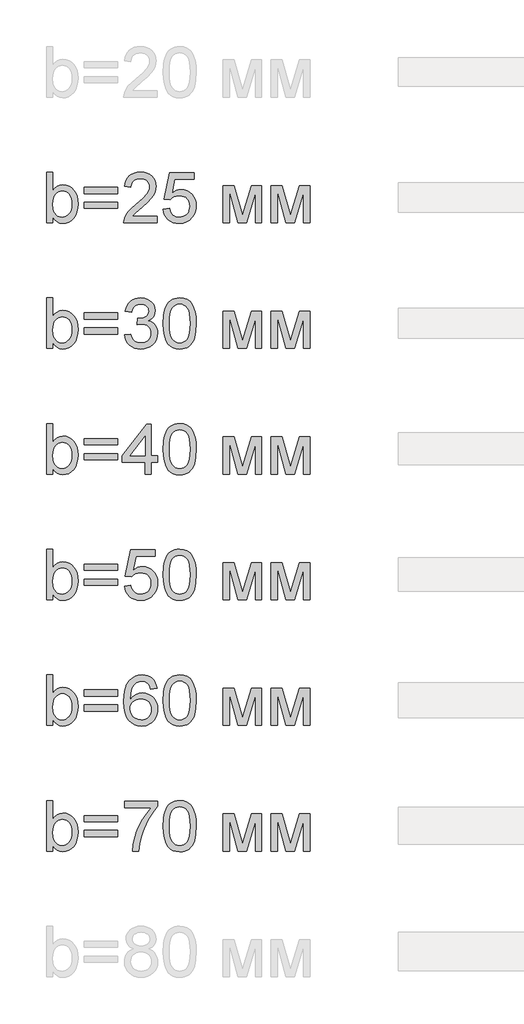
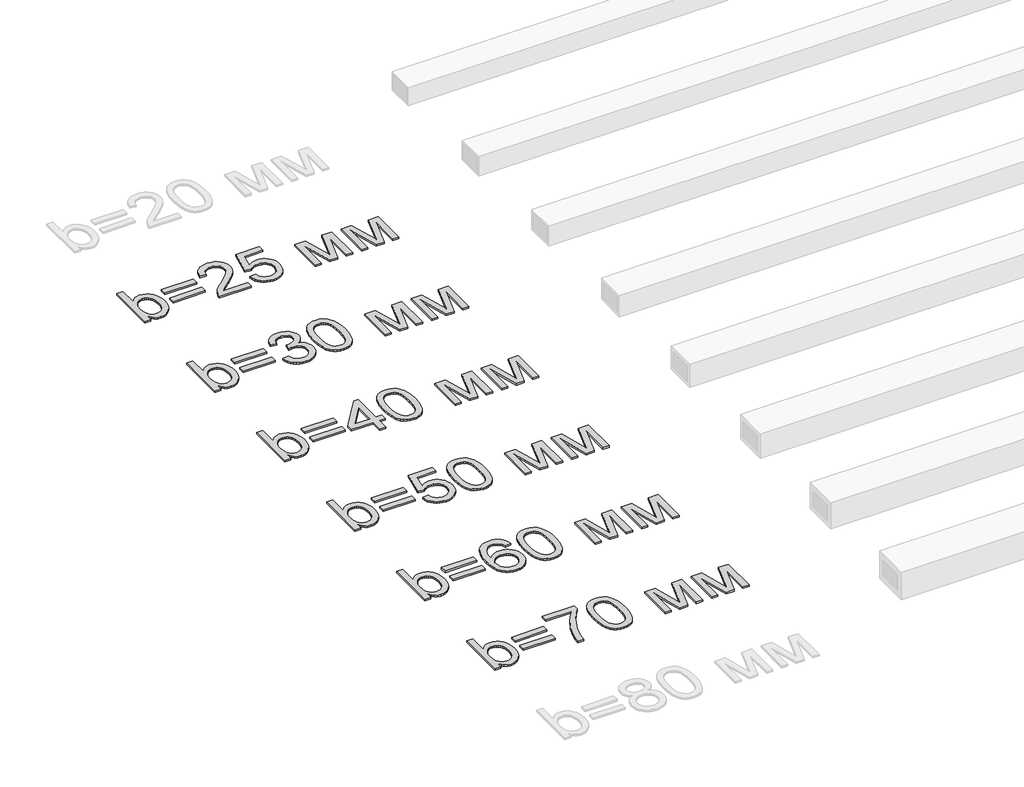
# One storey, part 69 of 86: 6 proxies.
"""IFC4 building model written with IfcOpenShell, lengths in millimetres."""

from ifc_helpers import new_model, si_unit, origin, origin_with_axes, place, context, project, spatial, polyline, outline, extrude, element, save

model = new_model("IFC4")

# Units and contexts
model_context = context("Model", 3, world=origin())
ifc_project = project(units=[si_unit("LENGTHUNIT", "METRE", prefix="MILLI")], contexts=[model_context])

# Site, building, storey
site = spatial("IfcSite", under=ifc_project)
building = spatial("IfcBuilding", under=site)
storey = spatial("IfcBuildingStorey", under=building, Name="Уровень 1", Elevation=0.0)

# Proxies
placement = place(None, origin())
element("IfcBuildingElementProxy", 1, Name="Текст модели 1", ObjectType="Текст модели 1", at=placement, inside=storey, context=model_context, shape_type="SweptSolid", body=[
    extrude(outline(polyline([(89771.0068445, 56669.2937088), (89695.6646119, 56669.2937088), (89695.6646119, 57272.0315697), (89771.0068445, 57272.0315697), (89771.0068445, 57048.5064694), (89795.7836969, 57080.3742473), (89823.7611226, 57103.1369457), (89854.9391217, 57116.7945648), (89889.3176942, 57121.3471045), (89928.1292447, 57117.2452202), (89964.8070796, 57104.9395675), (89997.2542716, 57085.2026984), (90023.3738932, 57058.8071653), (90043.8465263, 57026.0104854), (90059.3527524, 56987.0701762), (90069.1200193, 56943.6049185), (90072.375775, 56897.233393), (90069.0050562, 56843.7249568), (90058.8928999, 56796.6544555), (90042.039306, 56756.0218892), (90018.4442745, 56721.8272577), (89990.1219594, 56694.7235517), (89959.0865146, 56675.3637617), (89925.33794, 56663.7478877), (89888.8762358, 56659.8759297), (89853.3664262, 56664.8699278), (89821.8849245, 56679.8519221), (89794.4317306, 56704.8219125), (89771.0068445, 56739.7798991), (89771.0068445, 56669.2937088)]), holes=[polyline([(89771.0068445, 56893.7017259), (89776.1571925, 56830.8674811), (89782.5951274, 56807.065516), (89791.6082363, 56788.3403224), (89809.8643803, 56765.0993774), (89831.0819744, 56748.4987024), (89855.2610185, 56738.5382973), (89882.4015127, 56735.2181623), (89904.9342849, 56737.6645776), (89925.8851645, 56745.0038234), (89945.2541516, 56757.2358997), (89963.041246, 56774.3608066), (89977.9128757, 56796.3325588), (89988.5354683, 56823.105171), (89994.9090239, 56854.6786432), (89997.0335424, 56891.0529755), (89994.9963958, 56928.1170865), (89988.8849562, 56959.9940614), (89978.6992234, 56986.6839001), (89964.4391976, 57008.1866028), (89947.2912981, 57024.7320955), (89928.4419444, 57036.5503046), (89907.8911364, 57043.64123), (89885.6388742, 57046.0048719), (89863.106102, 57043.5584566), (89842.1552224, 57036.2192108), (89822.7862354, 57023.9871344), (89804.9991409, 57006.8622276), (89790.1275112, 56985.1112046), (89779.5049186, 56959.00078), (89773.1313631, 56928.5309538), (89771.0068445, 56893.7017259)])]), origin_with_axes(), (0.0, 0.0, 1.0), 20.0),
    extrude(outline(polyline([(90543.2647288, 57017.7515346), (90147.7180076, 57017.7515346), (90147.7180076, 57093.0937672), (90543.2647288, 57093.0937672), (90543.2647288, 57017.7515346)])), origin_with_axes(), (0.0, 0.0, 1.0), 20.0),
    extrude(outline(polyline([(90543.2647288, 56838.8137322), (90147.7180076, 56838.8137322), (90147.7180076, 56914.1559648), (90543.2647288, 56914.1559648), (90543.2647288, 56838.8137322)])), origin_with_axes(), (0.0, 0.0, 1.0), 20.0),
    extrude(outline(polyline([(91014.1536826, 56744.6359414), (91014.1536826, 56669.2937088), (90618.6069614, 56669.2937088), (90620.2624304, 56695.8180007), (90626.7003653, 56721.2386465), (90645.2784061, 56761.8344247), (90672.4648855, 56801.2161923), (90711.7914708, 56842.4373698), (90766.7898291, 56888.5513779), (90848.09175, 56960.7666136), (90896.8729026, 57014.0727147), (90911.1007387, 57035.8513288), (90921.2634789, 57057.3356373), (90927.3611229, 57078.5256402), (90929.393671, 57099.4213376), (90927.4760861, 57119.0800317), (90921.7233314, 57137.1476362), (90912.1354069, 57153.624151), (90898.7123126, 57168.5095763), (90882.1990095, 57180.8382216), (90863.3404587, 57189.6443969), (90842.1366602, 57194.928102), (90818.587614, 57196.6893371), (90793.778572, 57194.9694888), (90771.5906891, 57189.8099438), (90752.0239655, 57181.2107021), (90735.0784011, 57169.1717638), (90721.3701983, 57154.0977991), (90711.5155593, 57136.3934781), (90705.5144843, 57116.0588008), (90703.3669731, 57093.0937672), (90628.0247405, 57102.5115463), (90634.5040621, 57141.4058703), (90646.2900816, 57175.3889696), (90663.3827988, 57204.4608442), (90685.7822137, 57228.6214943), (90712.9732917, 57247.6134023), (90744.4409979, 57261.1790508), (90780.1853322, 57269.31844), (90820.2062948, 57272.0315697), (90860.5859423, 57269.0149373), (90896.5234147, 57259.9650403), (90928.018712, 57244.8818785), (90955.0718342, 57223.7654519), (90976.7998646, 57198.1792592), (90992.3198862, 57169.6867986), (91001.6318992, 57138.2880704), (91004.7359036, 57103.9830743), (91001.3881774, 57067.9490329), (90991.3449989, 57032.5403908), (90973.5211163, 56996.5247435), (90946.8312775, 56958.6696862), (90904.2857248, 56913.4753831), (90838.8947001, 56855.4419984), (90752.2217021, 56782.9692453), (90718.2294057, 56744.6359414), (91014.1536826, 56744.6359414)])), origin_with_axes(), (0.0, 0.0, 1.0), 20.0),
    extrude(outline(polyline([(91089.4959153, 56829.3959531), (91164.8381479, 56838.8137322), (91170.4667424, 56814.5933013), (91178.6705109, 56793.5826409), (91189.4494533, 56775.7817508), (91202.8035698, 56761.1906312), (91218.705269, 56749.8276761), (91237.1269599, 56741.7112795), (91258.0686425, 56736.8414416), (91281.5303167, 56735.2181623), (91310.2251124, 56737.4760381), (91335.5353936, 56744.2496653), (91357.4611605, 56755.539044), (91376.0024131, 56771.3441743), (91390.7452841, 56790.8833067), (91401.2759062, 56813.3746922), (91407.5942794, 56838.8183307), (91409.7004039, 56867.2142222), (91407.7276367, 56894.0512138), (91401.8093351, 56917.9083611), (91391.9454991, 56938.7856644), (91378.1361287, 56956.6831234), (91360.3352386, 56971.0397183), (91338.4968437, 56981.2944289), (91312.6209439, 56987.4472553), (91282.7075391, 56989.4981974), (91246.1584629, 56986.2240476), (91216.5623564, 56976.4015984), (91192.9259382, 56961.3552248), (91174.2559269, 56942.409302), (91098.9136943, 56951.8270811), (91164.8381479, 57262.6137906), (91456.7892992, 57262.6137906), (91456.7892992, 57187.271558), (91225.7594063, 57187.271558), (91193.5329435, 57021.2832018), (91220.1216147, 57040.3394891), (91247.3540794, 57053.951123), (91275.2303376, 57062.1181032), (91303.7503892, 57064.84043), (91340.4420197, 57061.4651127), (91374.144609, 57051.3391608), (91404.8581571, 57034.4625743), (91432.582664, 57010.8353531), (91455.5339019, 56981.9014342), (91471.9276433, 56949.1047543), (91481.7638882, 56912.4453135), (91485.0426365, 56871.9231117), (91482.0903835, 56832.8908321), (91473.2336244, 56796.5808791), (91458.4723594, 56762.993253), (91437.8065883, 56732.1279536), (91406.4998305, 56700.5176931), (91369.9691484, 56677.9389357), (91328.2145419, 56664.3916812), (91281.2360111, 56659.8759297), (91242.3554828, 56662.777599), (91207.2365478, 56671.4826067), (91175.8792062, 56685.9909529), (91148.2834581, 56706.3026375), (91125.3230231, 56731.4059852), (91107.8716209, 56760.2893203), (91095.9292516, 56792.952643), (91089.4959153, 56829.3959531)])), origin_with_axes(), (0.0, 0.0, 1.0), 20.0),
    extrude(outline(polyline([(91805.2471251, 57111.9293254), (91934.8887402, 57111.9293254), (92034.8054901, 56757.5853876), (92142.5213382, 57111.9293254), (92266.7182998, 57111.9293254), (92266.7182998, 56669.2937088), (92191.3760672, 56669.2937088), (92191.3760672, 57025.6977857), (92083.0716078, 56669.2937088), (91984.1849275, 56669.2937088), (91880.5893577, 57042.7675103), (91880.5893577, 56669.2937088), (91805.2471251, 56669.2937088), (91805.2471251, 57111.9293254)])), origin_with_axes(), (0.0, 0.0, 1.0), 20.0),
    extrude(outline(polyline([(92379.7316487, 57111.9293254), (92509.3732638, 57111.9293254), (92609.2900137, 56757.5853876), (92717.0058619, 57111.9293254), (92841.2028235, 57111.9293254), (92841.2028235, 56669.2937088), (92765.8605909, 56669.2937088), (92765.8605909, 57025.6977857), (92657.5561315, 56669.2937088), (92558.6694512, 56669.2937088), (92455.0738813, 57042.7675103), (92455.0738813, 56669.2937088), (92379.7316487, 56669.2937088), (92379.7316487, 57111.9293254)])), origin_with_axes(), (0.0, 0.0, 1.0), 20.0),
])
element("IfcBuildingElementProxy", 2, Name="Текст модели 1", ObjectType="Текст модели 1", at=placement, inside=storey, context=model_context, shape_type="SweptSolid", body=[
    extrude(outline(polyline([(89771.0068445, 55169.2937088), (89695.6646119, 55169.2937088), (89695.6646119, 55772.0315697), (89771.0068445, 55772.0315697), (89771.0068445, 55548.5064694), (89795.7836969, 55580.3742473), (89823.7611226, 55603.1369457), (89854.9391217, 55616.7945648), (89889.3176942, 55621.3471045), (89928.1292447, 55617.2452202), (89964.8070796, 55604.9395675), (89997.2542716, 55585.2026984), (90023.3738932, 55558.8071653), (90043.8465263, 55526.0104854), (90059.3527524, 55487.0701762), (90069.1200193, 55443.6049185), (90072.375775, 55397.233393), (90069.0050562, 55343.7249568), (90058.8928999, 55296.6544555), (90042.039306, 55256.0218892), (90018.4442745, 55221.8272577), (89990.1219594, 55194.7235517), (89959.0865146, 55175.3637617), (89925.33794, 55163.7478877), (89888.8762358, 55159.8759297), (89853.3664262, 55164.8699278), (89821.8849245, 55179.8519221), (89794.4317306, 55204.8219125), (89771.0068445, 55239.7798991), (89771.0068445, 55169.2937088)]), holes=[polyline([(89771.0068445, 55393.7017259), (89776.1571925, 55330.8674811), (89782.5951274, 55307.065516), (89791.6082363, 55288.3403224), (89809.8643803, 55265.0993774), (89831.0819744, 55248.4987024), (89855.2610185, 55238.5382973), (89882.4015127, 55235.2181623), (89904.9342849, 55237.6645776), (89925.8851645, 55245.0038234), (89945.2541516, 55257.2358997), (89963.041246, 55274.3608066), (89977.9128757, 55296.3325588), (89988.5354683, 55323.105171), (89994.9090239, 55354.6786432), (89997.0335424, 55391.0529755), (89994.9963958, 55428.1170865), (89988.8849562, 55459.9940614), (89978.6992234, 55486.6839001), (89964.4391976, 55508.1866028), (89947.2912981, 55524.7320955), (89928.4419444, 55536.5503046), (89907.8911364, 55543.64123), (89885.6388742, 55546.0048719), (89863.106102, 55543.5584566), (89842.1552224, 55536.2192108), (89822.7862354, 55523.9871344), (89804.9991409, 55506.8622276), (89790.1275112, 55485.1112046), (89779.5049186, 55459.00078), (89773.1313631, 55428.5309538), (89771.0068445, 55393.7017259)])]), origin_with_axes(), (0.0, 0.0, 1.0), 20.0),
    extrude(outline(polyline([(90543.2647288, 55517.7515346), (90147.7180076, 55517.7515346), (90147.7180076, 55593.0937672), (90543.2647288, 55593.0937672), (90543.2647288, 55517.7515346)])), origin_with_axes(), (0.0, 0.0, 1.0), 20.0),
    extrude(outline(polyline([(90543.2647288, 55338.8137322), (90147.7180076, 55338.8137322), (90147.7180076, 55414.1559648), (90543.2647288, 55414.1559648), (90543.2647288, 55338.8137322)])), origin_with_axes(), (0.0, 0.0, 1.0), 20.0),
    extrude(outline(polyline([(90628.0247405, 55329.3959531), (90703.3669731, 55338.8137322), (90720.2343626, 55291.4673194), (90731.6065148, 55273.5606633), (90744.9376386, 55259.498374), (90760.5312366, 55248.8757814), (90778.6908116, 55241.2882153), (90799.4163635, 55236.7356756), (90822.7078924, 55235.2181623), (90850.0047364, 55237.3058927), (90874.3585245, 55243.5690836), (90895.7692566, 55254.0077352), (90914.2369328, 55268.6218475), (90929.1085624, 55286.3169715), (90939.731155, 55305.9986582), (90946.1047106, 55327.6669077), (90948.2292291, 55351.32172), (90946.1231047, 55373.8498937), (90939.8047314, 55394.3455193), (90929.2741093, 55412.808597), (90914.5312383, 55429.2391266), (90896.5418088, 55442.7266002), (90876.2715108, 55452.36051), (90853.7203445, 55458.1408558), (90828.8883099, 55460.0676378), (90805.0863448, 55458.0074986), (90776.0604554, 55451.8270811), (90784.4481649, 55527.1693137), (90796.5146943, 55526.2863969), (90841.6538151, 55531.6942622), (90882.01047, 55547.9178582), (90898.6203421, 55560.1867228), (90910.4845364, 55575.3618551), (90917.603053, 55593.4432551), (90919.9758919, 55614.430923), (90918.2560435, 55631.4684579), (90913.0964986, 55646.9700854), (90904.4972569, 55660.9358057), (90892.4583186, 55673.3656186), (90877.7062506, 55683.5697454), (90860.9676198, 55690.8584075), (90821.53067, 55696.6893371), (90800.8740959, 55695.2178091), (90782.0201437, 55690.8032252), (90764.9688132, 55683.4455853), (90749.7201045, 55673.1448894), (90736.6510966, 55659.9011376), (90726.1388686, 55643.7143298), (90718.1834205, 55624.584466), (90712.7847522, 55602.5115463), (90637.4425196, 55611.9293254), (90646.372855, 55647.8989875), (90659.6258039, 55679.5828243), (90677.2013662, 55706.9808359), (90699.099542, 55730.0930222), (90724.6305524, 55748.4411368), (90753.1046189, 55761.5469328), (90784.5217413, 55769.4104105), (90818.8819196, 55772.0315697), (90866.2467265, 55766.8628277), (90909.7487724, 55751.3566016), (90946.4266073, 55726.8924489), (90973.3187812, 55694.8499271), (90989.8182887, 55657.9329689), (90995.3181245, 55618.8455069), (90990.0942002, 55582.4251894), (90974.4224272, 55549.3893862), (90948.5235347, 55521.2464136), (90912.618252, 55499.5045877), (90937.7261981, 55491.6503071), (90959.7807238, 55480.4483003), (90978.7818288, 55465.8985674), (90994.7295133, 55448.0011083), (91007.3478657, 55427.1973815), (91016.3609746, 55403.9288453), (91021.7688399, 55378.1954998), (91023.5714617, 55349.9973448), (91019.9662182, 55311.7744055), (91009.1504875, 55276.5680986), (90991.1242697, 55244.378424), (90965.8875649, 55215.2053818), (90935.1418271, 55190.9987465), (90900.5885107, 55173.7082927), (90862.2276157, 55163.3340205), (90820.059142, 55159.8759297), (90781.9465673, 55162.8281827), (90747.2185069, 55171.6849418), (90715.874961, 55186.4462068), (90687.9159293, 55207.1119779), (90664.4726492, 55232.4682444), (90646.6763577, 55261.3009958), (90634.5270548, 55293.610232), (90628.0247405, 55329.3959531)])), origin_with_axes(), (0.0, 0.0, 1.0), 20.0),
    extrude(outline(polyline([(91089.4959153, 55465.8065969), (91095.0325393, 55562.2836501), (91101.9533193, 55603.1967265), (91111.6424114, 55639.2261694), (91124.0584287, 55670.6662845), (91139.1599846, 55697.8113772), (91156.9470791, 55720.6614476), (91177.4197121, 55739.2164957), (91200.6468616, 55753.5730906), (91226.6975054, 55763.8278012), (91255.5716435, 55769.9806276), (91287.2692759, 55772.0315697), (91333.6959837, 55767.1755274), (91375.2666491, 55752.6074004), (91410.0314977, 55728.8974058), (91436.0407547, 55696.6157607), (91455.6856533, 55656.0383766), (91471.3574262, 55607.4411651), (91481.6213339, 55545.7289604), (91485.0426365, 55465.8065969), (91479.5611947, 55369.8813667), (91472.7093926, 55329.106246), (91463.1168696, 55293.1227884), (91450.7974212, 55261.6688778), (91435.7648432, 55234.4823983), (91418.0191355, 55211.56335), (91397.560298, 55192.9117329), (91374.3055574, 55178.458569), (91348.1721402, 55168.1348805), (91319.1600463, 55161.9406674), (91287.2692759, 55159.8759297), (91245.7721868, 55163.4627792), (91208.9839873, 55174.2233275), (91176.9046773, 55192.1575748), (91149.5342569, 55217.265521), (91123.2674824, 55262.6529621), (91104.5055007, 55319.2056218), (91093.2483116, 55386.9235001), (91089.4959153, 55465.8065969)]), holes=[polyline([(91164.8381479, 55465.9537497), (91167.0454398, 55400.456959), (91173.6673158, 55347.440565), (91184.7037756, 55306.9045676), (91200.1548194, 55278.848967), (91218.8432248, 55259.7604899), (91239.5917693, 55246.1258635), (91262.400453, 55237.9450876), (91287.2692759, 55235.2181623), (91312.1380987, 55237.9542847), (91334.9467824, 55246.1626517), (91355.695327, 55259.8432634), (91374.3837323, 55278.9961198), (91389.8347761, 55307.0977057), (91400.871236, 55347.624506), (91407.4931119, 55400.5765206), (91409.7004039, 55465.9537497), (91407.5666883, 55529.7168965), (91401.1655416, 55581.79979), (91390.4969637, 55622.2024301), (91375.5609547, 55650.9248169), (91357.185249, 55670.9467945), (91336.1975812, 55685.248207), (91312.5979512, 55693.8290546), (91286.3863591, 55696.6893371), (91261.6462949, 55694.1693454), (91239.2238873, 55686.6093704), (91219.1191363, 55674.0094121), (91201.3320418, 55656.3694704), (91185.3659632, 55625.0995008), (91173.9616213, 55582.9402242), (91167.1190162, 55529.8916405), (91164.8381479, 55465.9537497)])]), origin_with_axes(), (0.0, 0.0, 1.0), 20.0),
    extrude(outline(polyline([(91805.2471251, 55611.9293254), (91934.8887402, 55611.9293254), (92034.8054901, 55257.5853876), (92142.5213382, 55611.9293254), (92266.7182998, 55611.9293254), (92266.7182998, 55169.2937088), (92191.3760672, 55169.2937088), (92191.3760672, 55525.6977857), (92083.0716078, 55169.2937088), (91984.1849275, 55169.2937088), (91880.5893577, 55542.7675103), (91880.5893577, 55169.2937088), (91805.2471251, 55169.2937088), (91805.2471251, 55611.9293254)])), origin_with_axes(), (0.0, 0.0, 1.0), 20.0),
    extrude(outline(polyline([(92379.7316487, 55611.9293254), (92509.3732638, 55611.9293254), (92609.2900137, 55257.5853876), (92717.0058619, 55611.9293254), (92841.2028235, 55611.9293254), (92841.2028235, 55169.2937088), (92765.8605909, 55169.2937088), (92765.8605909, 55525.6977857), (92657.5561315, 55169.2937088), (92558.6694512, 55169.2937088), (92455.0738813, 55542.7675103), (92455.0738813, 55169.2937088), (92379.7316487, 55169.2937088), (92379.7316487, 55611.9293254)])), origin_with_axes(), (0.0, 0.0, 1.0), 20.0),
])
element("IfcBuildingElementProxy", 3, Name="Текст модели 1", ObjectType="Текст модели 1", at=placement, inside=storey, context=model_context, shape_type="SweptSolid", body=[
    extrude(outline(polyline([(89771.0068445, 53669.2937088), (89695.6646119, 53669.2937088), (89695.6646119, 54272.0315697), (89771.0068445, 54272.0315697), (89771.0068445, 54048.5064694), (89795.7836969, 54080.3742473), (89823.7611226, 54103.1369457), (89854.9391217, 54116.7945648), (89889.3176942, 54121.3471045), (89928.1292447, 54117.2452202), (89964.8070796, 54104.9395675), (89997.2542716, 54085.2026984), (90023.3738932, 54058.8071653), (90043.8465263, 54026.0104854), (90059.3527524, 53987.0701762), (90069.1200193, 53943.6049185), (90072.375775, 53897.233393), (90069.0050562, 53843.7249568), (90058.8928999, 53796.6544555), (90042.039306, 53756.0218892), (90018.4442745, 53721.8272577), (89990.1219594, 53694.7235517), (89959.0865146, 53675.3637617), (89925.33794, 53663.7478877), (89888.8762358, 53659.8759297), (89853.3664262, 53664.8699278), (89821.8849245, 53679.8519221), (89794.4317306, 53704.8219125), (89771.0068445, 53739.7798991), (89771.0068445, 53669.2937088)]), holes=[polyline([(89771.0068445, 53893.7017259), (89776.1571925, 53830.8674811), (89782.5951274, 53807.065516), (89791.6082363, 53788.3403224), (89809.8643803, 53765.0993774), (89831.0819744, 53748.4987024), (89855.2610185, 53738.5382973), (89882.4015127, 53735.2181623), (89904.9342849, 53737.6645776), (89925.8851645, 53745.0038234), (89945.2541516, 53757.2358997), (89963.041246, 53774.3608066), (89977.9128757, 53796.3325588), (89988.5354683, 53823.105171), (89994.9090239, 53854.6786432), (89997.0335424, 53891.0529755), (89994.9963958, 53928.1170865), (89988.8849562, 53959.9940614), (89978.6992234, 53986.6839001), (89964.4391976, 54008.1866028), (89947.2912981, 54024.7320955), (89928.4419444, 54036.5503046), (89907.8911364, 54043.64123), (89885.6388742, 54046.0048719), (89863.106102, 54043.5584566), (89842.1552224, 54036.2192108), (89822.7862354, 54023.9871344), (89804.9991409, 54006.8622276), (89790.1275112, 53985.1112046), (89779.5049186, 53959.00078), (89773.1313631, 53928.5309538), (89771.0068445, 53893.7017259)])]), origin_with_axes(), (0.0, 0.0, 1.0), 20.0),
    extrude(outline(polyline([(90543.2647288, 54017.7515346), (90147.7180076, 54017.7515346), (90147.7180076, 54093.0937672), (90543.2647288, 54093.0937672), (90543.2647288, 54017.7515346)])), origin_with_axes(), (0.0, 0.0, 1.0), 20.0),
    extrude(outline(polyline([(90543.2647288, 53838.8137322), (90147.7180076, 53838.8137322), (90147.7180076, 53914.1559648), (90543.2647288, 53914.1559648), (90543.2647288, 53838.8137322)])), origin_with_axes(), (0.0, 0.0, 1.0), 20.0),
    extrude(outline(polyline([(90872.8869965, 53669.2937088), (90872.8869965, 53810.5603949), (90599.7714033, 53810.5603949), (90599.7714033, 53885.9026276), (90891.7225546, 54262.6137906), (90948.2292291, 54262.6137906), (90948.2292291, 53885.9026276), (91023.5714617, 53885.9026276), (91023.5714617, 53810.5603949), (90948.2292291, 53810.5603949), (90948.2292291, 53669.2937088), (90872.8869965, 53669.2937088)]), holes=[polyline([(90872.8869965, 53885.9026276), (90872.8869965, 54118.6983541), (90692.4776661, 53885.9026276), (90872.8869965, 53885.9026276)])]), origin_with_axes(), (0.0, 0.0, 1.0), 20.0),
    extrude(outline(polyline([(91089.4959153, 53965.8065969), (91095.0325393, 54062.2836501), (91101.9533193, 54103.1967265), (91111.6424114, 54139.2261694), (91124.0584287, 54170.6662845), (91139.1599846, 54197.8113772), (91156.9470791, 54220.6614476), (91177.4197121, 54239.2164957), (91200.6468616, 54253.5730906), (91226.6975054, 54263.8278012), (91255.5716435, 54269.9806276), (91287.2692759, 54272.0315697), (91333.6959837, 54267.1755274), (91375.2666491, 54252.6074004), (91410.0314977, 54228.8974058), (91436.0407547, 54196.6157607), (91455.6856533, 54156.0383766), (91471.3574262, 54107.4411651), (91481.6213339, 54045.7289604), (91485.0426365, 53965.8065969), (91479.5611947, 53869.8813667), (91472.7093926, 53829.106246), (91463.1168696, 53793.1227884), (91450.7974212, 53761.6688778), (91435.7648432, 53734.4823983), (91418.0191355, 53711.56335), (91397.560298, 53692.9117329), (91374.3055574, 53678.458569), (91348.1721402, 53668.1348805), (91319.1600463, 53661.9406674), (91287.2692759, 53659.8759297), (91245.7721868, 53663.4627792), (91208.9839873, 53674.2233275), (91176.9046773, 53692.1575748), (91149.5342569, 53717.265521), (91123.2674824, 53762.6529621), (91104.5055007, 53819.2056218), (91093.2483116, 53886.9235001), (91089.4959153, 53965.8065969)]), holes=[polyline([(91164.8381479, 53965.9537497), (91167.0454398, 53900.456959), (91173.6673158, 53847.440565), (91184.7037756, 53806.9045676), (91200.1548194, 53778.848967), (91218.8432248, 53759.7604899), (91239.5917693, 53746.1258635), (91262.400453, 53737.9450876), (91287.2692759, 53735.2181623), (91312.1380987, 53737.9542847), (91334.9467824, 53746.1626517), (91355.695327, 53759.8432634), (91374.3837323, 53778.9961198), (91389.8347761, 53807.0977057), (91400.871236, 53847.624506), (91407.4931119, 53900.5765206), (91409.7004039, 53965.9537497), (91407.5666883, 54029.7168965), (91401.1655416, 54081.79979), (91390.4969637, 54122.2024301), (91375.5609547, 54150.9248169), (91357.185249, 54170.9467945), (91336.1975812, 54185.248207), (91312.5979512, 54193.8290546), (91286.3863591, 54196.6893371), (91261.6462949, 54194.1693454), (91239.2238873, 54186.6093704), (91219.1191363, 54174.0094121), (91201.3320418, 54156.3694704), (91185.3659632, 54125.0995008), (91173.9616213, 54082.9402242), (91167.1190162, 54029.8916405), (91164.8381479, 53965.9537497)])]), origin_with_axes(), (0.0, 0.0, 1.0), 20.0),
    extrude(outline(polyline([(91805.2471251, 54111.9293254), (91934.8887402, 54111.9293254), (92034.8054901, 53757.5853876), (92142.5213382, 54111.9293254), (92266.7182998, 54111.9293254), (92266.7182998, 53669.2937088), (92191.3760672, 53669.2937088), (92191.3760672, 54025.6977857), (92083.0716078, 53669.2937088), (91984.1849275, 53669.2937088), (91880.5893577, 54042.7675103), (91880.5893577, 53669.2937088), (91805.2471251, 53669.2937088), (91805.2471251, 54111.9293254)])), origin_with_axes(), (0.0, 0.0, 1.0), 20.0),
    extrude(outline(polyline([(92379.7316487, 54111.9293254), (92509.3732638, 54111.9293254), (92609.2900137, 53757.5853876), (92717.0058619, 54111.9293254), (92841.2028235, 54111.9293254), (92841.2028235, 53669.2937088), (92765.8605909, 53669.2937088), (92765.8605909, 54025.6977857), (92657.5561315, 53669.2937088), (92558.6694512, 53669.2937088), (92455.0738813, 54042.7675103), (92455.0738813, 53669.2937088), (92379.7316487, 53669.2937088), (92379.7316487, 54111.9293254)])), origin_with_axes(), (0.0, 0.0, 1.0), 20.0),
])
element("IfcBuildingElementProxy", 4, Name="Текст модели 1", ObjectType="Текст модели 1", at=placement, inside=storey, context=model_context, shape_type="SweptSolid", body=[
    extrude(outline(polyline([(89771.0068445, 52169.2937088), (89695.6646119, 52169.2937088), (89695.6646119, 52772.0315697), (89771.0068445, 52772.0315697), (89771.0068445, 52548.5064694), (89795.7836969, 52580.3742473), (89823.7611226, 52603.1369457), (89854.9391217, 52616.7945648), (89889.3176942, 52621.3471045), (89928.1292447, 52617.2452202), (89964.8070796, 52604.9395675), (89997.2542716, 52585.2026984), (90023.3738932, 52558.8071653), (90043.8465263, 52526.0104854), (90059.3527524, 52487.0701762), (90069.1200193, 52443.6049185), (90072.375775, 52397.233393), (90069.0050562, 52343.7249568), (90058.8928999, 52296.6544555), (90042.039306, 52256.0218892), (90018.4442745, 52221.8272577), (89990.1219594, 52194.7235517), (89959.0865146, 52175.3637617), (89925.33794, 52163.7478877), (89888.8762358, 52159.8759297), (89853.3664262, 52164.8699278), (89821.8849245, 52179.8519221), (89794.4317306, 52204.8219125), (89771.0068445, 52239.7798991), (89771.0068445, 52169.2937088)]), holes=[polyline([(89771.0068445, 52393.7017259), (89776.1571925, 52330.8674811), (89782.5951274, 52307.065516), (89791.6082363, 52288.3403224), (89809.8643803, 52265.0993774), (89831.0819744, 52248.4987024), (89855.2610185, 52238.5382973), (89882.4015127, 52235.2181623), (89904.9342849, 52237.6645776), (89925.8851645, 52245.0038234), (89945.2541516, 52257.2358997), (89963.041246, 52274.3608066), (89977.9128757, 52296.3325588), (89988.5354683, 52323.105171), (89994.9090239, 52354.6786432), (89997.0335424, 52391.0529755), (89994.9963958, 52428.1170865), (89988.8849562, 52459.9940614), (89978.6992234, 52486.6839001), (89964.4391976, 52508.1866028), (89947.2912981, 52524.7320955), (89928.4419444, 52536.5503046), (89907.8911364, 52543.64123), (89885.6388742, 52546.0048719), (89863.106102, 52543.5584566), (89842.1552224, 52536.2192108), (89822.7862354, 52523.9871344), (89804.9991409, 52506.8622276), (89790.1275112, 52485.1112046), (89779.5049186, 52459.00078), (89773.1313631, 52428.5309538), (89771.0068445, 52393.7017259)])]), origin_with_axes(), (0.0, 0.0, 1.0), 20.0),
    extrude(outline(polyline([(90543.2647288, 52517.7515346), (90147.7180076, 52517.7515346), (90147.7180076, 52593.0937672), (90543.2647288, 52593.0937672), (90543.2647288, 52517.7515346)])), origin_with_axes(), (0.0, 0.0, 1.0), 20.0),
    extrude(outline(polyline([(90543.2647288, 52338.8137322), (90147.7180076, 52338.8137322), (90147.7180076, 52414.1559648), (90543.2647288, 52414.1559648), (90543.2647288, 52338.8137322)])), origin_with_axes(), (0.0, 0.0, 1.0), 20.0),
    extrude(outline(polyline([(90628.0247405, 52329.3959531), (90703.3669731, 52338.8137322), (90708.9955676, 52314.5933013), (90717.1993361, 52293.5826409), (90727.9782786, 52275.7817508), (90741.332395, 52261.1906312), (90757.2340943, 52249.8276761), (90775.6557852, 52241.7112795), (90796.5974677, 52236.8414416), (90820.059142, 52235.2181623), (90848.7539376, 52237.4760381), (90874.0642189, 52244.2496653), (90895.9899858, 52255.539044), (90914.5312383, 52271.3441743), (90929.2741093, 52290.8833067), (90939.8047314, 52313.3746922), (90946.1231047, 52338.8183307), (90948.2292291, 52367.2142222), (90946.2564619, 52394.0512138), (90940.3381603, 52417.9083611), (90930.4743243, 52438.7856644), (90916.6649539, 52456.6831234), (90898.8640639, 52471.0397183), (90877.0256689, 52481.2944289), (90851.1497691, 52487.4472553), (90821.2363644, 52489.4981974), (90784.6872881, 52486.2240476), (90755.0911816, 52476.4015984), (90731.4547634, 52461.3552248), (90712.7847522, 52442.409302), (90637.4425196, 52451.8270811), (90703.3669731, 52762.6137906), (90995.3181245, 52762.6137906), (90995.3181245, 52687.271558), (90764.2882315, 52687.271558), (90732.0617687, 52521.2832018), (90758.6504399, 52540.3394891), (90785.8829046, 52553.951123), (90813.7591628, 52562.1181032), (90842.2792145, 52564.84043), (90878.970845, 52561.4651127), (90912.6734343, 52551.3391608), (90943.3869823, 52534.4625743), (90971.1114892, 52510.8353531), (90994.0627272, 52481.9014342), (91010.4564686, 52449.1047543), (91020.2927134, 52412.4453135), (91023.5714617, 52371.9231117), (91020.6192087, 52332.8908321), (91011.7624497, 52296.5808791), (90997.0011846, 52262.993253), (90976.3354135, 52232.1279536), (90945.0286557, 52200.5176931), (90908.4979736, 52177.9389357), (90866.7433672, 52164.3916812), (90819.7648364, 52159.8759297), (90780.884308, 52162.777599), (90745.7653731, 52171.4826067), (90714.4080315, 52185.9909529), (90686.8122833, 52206.3026375), (90663.8518483, 52231.4059852), (90646.4004462, 52260.2893203), (90634.4580769, 52292.952643), (90628.0247405, 52329.3959531)])), origin_with_axes(), (0.0, 0.0, 1.0), 20.0),
    extrude(outline(polyline([(91089.4959153, 52465.8065969), (91095.0325393, 52562.2836501), (91101.9533193, 52603.1967265), (91111.6424114, 52639.2261694), (91124.0584287, 52670.6662845), (91139.1599846, 52697.8113772), (91156.9470791, 52720.6614476), (91177.4197121, 52739.2164957), (91200.6468616, 52753.5730906), (91226.6975054, 52763.8278012), (91255.5716435, 52769.9806276), (91287.2692759, 52772.0315697), (91333.6959837, 52767.1755274), (91375.2666491, 52752.6074004), (91410.0314977, 52728.8974058), (91436.0407547, 52696.6157607), (91455.6856533, 52656.0383766), (91471.3574262, 52607.4411651), (91481.6213339, 52545.7289604), (91485.0426365, 52465.8065969), (91479.5611947, 52369.8813667), (91472.7093926, 52329.106246), (91463.1168696, 52293.1227884), (91450.7974212, 52261.6688778), (91435.7648432, 52234.4823983), (91418.0191355, 52211.56335), (91397.560298, 52192.9117329), (91374.3055574, 52178.458569), (91348.1721402, 52168.1348805), (91319.1600463, 52161.9406674), (91287.2692759, 52159.8759297), (91245.7721868, 52163.4627792), (91208.9839873, 52174.2233275), (91176.9046773, 52192.1575748), (91149.5342569, 52217.265521), (91123.2674824, 52262.6529621), (91104.5055007, 52319.2056218), (91093.2483116, 52386.9235001), (91089.4959153, 52465.8065969)]), holes=[polyline([(91164.8381479, 52465.9537497), (91167.0454398, 52400.456959), (91173.6673158, 52347.440565), (91184.7037756, 52306.9045676), (91200.1548194, 52278.848967), (91218.8432248, 52259.7604899), (91239.5917693, 52246.1258635), (91262.400453, 52237.9450876), (91287.2692759, 52235.2181623), (91312.1380987, 52237.9542847), (91334.9467824, 52246.1626517), (91355.695327, 52259.8432634), (91374.3837323, 52278.9961198), (91389.8347761, 52307.0977057), (91400.871236, 52347.624506), (91407.4931119, 52400.5765206), (91409.7004039, 52465.9537497), (91407.5666883, 52529.7168965), (91401.1655416, 52581.79979), (91390.4969637, 52622.2024301), (91375.5609547, 52650.9248169), (91357.185249, 52670.9467945), (91336.1975812, 52685.248207), (91312.5979512, 52693.8290546), (91286.3863591, 52696.6893371), (91261.6462949, 52694.1693454), (91239.2238873, 52686.6093704), (91219.1191363, 52674.0094121), (91201.3320418, 52656.3694704), (91185.3659632, 52625.0995008), (91173.9616213, 52582.9402242), (91167.1190162, 52529.8916405), (91164.8381479, 52465.9537497)])]), origin_with_axes(), (0.0, 0.0, 1.0), 20.0),
    extrude(outline(polyline([(91805.2471251, 52611.9293254), (91934.8887402, 52611.9293254), (92034.8054901, 52257.5853876), (92142.5213382, 52611.9293254), (92266.7182998, 52611.9293254), (92266.7182998, 52169.2937088), (92191.3760672, 52169.2937088), (92191.3760672, 52525.6977857), (92083.0716078, 52169.2937088), (91984.1849275, 52169.2937088), (91880.5893577, 52542.7675103), (91880.5893577, 52169.2937088), (91805.2471251, 52169.2937088), (91805.2471251, 52611.9293254)])), origin_with_axes(), (0.0, 0.0, 1.0), 20.0),
    extrude(outline(polyline([(92379.7316487, 52611.9293254), (92509.3732638, 52611.9293254), (92609.2900137, 52257.5853876), (92717.0058619, 52611.9293254), (92841.2028235, 52611.9293254), (92841.2028235, 52169.2937088), (92765.8605909, 52169.2937088), (92765.8605909, 52525.6977857), (92657.5561315, 52169.2937088), (92558.6694512, 52169.2937088), (92455.0738813, 52542.7675103), (92455.0738813, 52169.2937088), (92379.7316487, 52169.2937088), (92379.7316487, 52611.9293254)])), origin_with_axes(), (0.0, 0.0, 1.0), 20.0),
])
element("IfcBuildingElementProxy", 5, Name="Текст модели 1", ObjectType="Текст модели 1", at=placement, inside=storey, context=model_context, shape_type="SweptSolid", body=[
    extrude(outline(polyline([(89771.0068445, 50669.2937088), (89695.6646119, 50669.2937088), (89695.6646119, 51272.0315697), (89771.0068445, 51272.0315697), (89771.0068445, 51048.5064694), (89795.7836969, 51080.3742473), (89823.7611226, 51103.1369457), (89854.9391217, 51116.7945648), (89889.3176942, 51121.3471045), (89928.1292447, 51117.2452202), (89964.8070796, 51104.9395675), (89997.2542716, 51085.2026984), (90023.3738932, 51058.8071653), (90043.8465263, 51026.0104854), (90059.3527524, 50987.0701762), (90069.1200193, 50943.6049185), (90072.375775, 50897.233393), (90069.0050562, 50843.7249568), (90058.8928999, 50796.6544555), (90042.039306, 50756.0218892), (90018.4442745, 50721.8272577), (89990.1219594, 50694.7235517), (89959.0865146, 50675.3637617), (89925.33794, 50663.7478877), (89888.8762358, 50659.8759297), (89853.3664262, 50664.8699278), (89821.8849245, 50679.8519221), (89794.4317306, 50704.8219125), (89771.0068445, 50739.7798991), (89771.0068445, 50669.2937088)]), holes=[polyline([(89771.0068445, 50893.7017259), (89776.1571925, 50830.8674811), (89782.5951274, 50807.065516), (89791.6082363, 50788.3403224), (89809.8643803, 50765.0993774), (89831.0819744, 50748.4987024), (89855.2610185, 50738.5382973), (89882.4015127, 50735.2181623), (89904.9342849, 50737.6645776), (89925.8851645, 50745.0038234), (89945.2541516, 50757.2358997), (89963.041246, 50774.3608066), (89977.9128757, 50796.3325588), (89988.5354683, 50823.105171), (89994.9090239, 50854.6786432), (89997.0335424, 50891.0529755), (89994.9963958, 50928.1170865), (89988.8849562, 50959.9940614), (89978.6992234, 50986.6839001), (89964.4391976, 51008.1866028), (89947.2912981, 51024.7320955), (89928.4419444, 51036.5503046), (89907.8911364, 51043.64123), (89885.6388742, 51046.0048719), (89863.106102, 51043.5584566), (89842.1552224, 51036.2192108), (89822.7862354, 51023.9871344), (89804.9991409, 51006.8622276), (89790.1275112, 50985.1112046), (89779.5049186, 50959.00078), (89773.1313631, 50928.5309538), (89771.0068445, 50893.7017259)])]), origin_with_axes(), (0.0, 0.0, 1.0), 20.0),
    extrude(outline(polyline([(90543.2647288, 51017.7515346), (90147.7180076, 51017.7515346), (90147.7180076, 51093.0937672), (90543.2647288, 51093.0937672), (90543.2647288, 51017.7515346)])), origin_with_axes(), (0.0, 0.0, 1.0), 20.0),
    extrude(outline(polyline([(90543.2647288, 50838.8137322), (90147.7180076, 50838.8137322), (90147.7180076, 50914.1559648), (90543.2647288, 50914.1559648), (90543.2647288, 50838.8137322)])), origin_with_axes(), (0.0, 0.0, 1.0), 20.0),
    extrude(outline(polyline([(91014.1536826, 51111.9293254), (90938.81145, 51102.5115463), (90926.6713442, 51139.8515688), (90910.2638072, 51165.3457911), (90894.0678024, 51179.0585925), (90876.0875699, 51188.8534506), (90856.3231097, 51194.7303655), (90834.7744218, 51196.6893371), (90799.7520559, 51192.1276003), (90766.7898291, 51178.4423901), (90738.4813096, 51149.6188358), (90715.3599262, 51109.9427626), (90706.3238247, 51084.6370799), (90699.7433355, 51053.8223643), (90693.949194, 50975.6658344), (90724.1706999, 51010.9273236), (90760.3886824, 51035.7777524), (90800.5797903, 51050.5114263), (90842.7206729, 51055.4226509), (90878.9202612, 51052.0657277), (90912.3239464, 51041.9949581), (90942.9317284, 51025.2103421), (90970.7436072, 51001.7118796), (90993.8557936, 50972.8975224), (91010.3644981, 50940.1652218), (91020.2697208, 50903.5149781), (91023.5714617, 50862.9467911), (91022.0171603, 50835.4798016), (91017.354256, 50808.9968965), (91009.5827489, 50783.4980757), (90998.7026388, 50758.9833392), (90985.1002021, 50736.3677936), (90969.1617146, 50716.5665452), (90950.8871765, 50699.5795941), (90930.2765877, 50685.4069402), (90907.7714067, 50674.2371231), (90883.8130918, 50666.2586823), (90858.4016429, 50661.4716179), (90831.5370602, 50659.8759297), (90786.6232671, 50664.1065727), (90746.0596787, 50676.7985015), (90709.8462948, 50697.9517162), (90677.9831154, 50727.5662168), (90652.0060481, 50766.8928021), (90633.4509999, 50817.1822709), (90622.3179711, 50878.4346231), (90618.6069614, 50950.6498587), (90622.7272398, 51031.6114888), (90635.0880748, 51100.7089245), (90655.6894665, 51157.9421659), (90669.0803712, 51182.1097138), (90684.531415, 51203.311213), (90715.7921875, 51233.3763691), (90752.0377611, 51254.8514805), (90793.2681357, 51267.7365474), (90839.4833113, 51272.0315697), (90874.1837805, 51269.3736223), (90905.5917059, 51261.39978), (90933.7070873, 51248.110043), (90958.529925, 51229.5044111), (90979.3888341, 51206.2082837), (90995.6124301, 51178.8470603), (91007.2007129, 51147.4207409), (91014.1536826, 51111.9293254)]), holes=[polyline([(90693.949194, 50864.1240134), (90698.3085957, 50830.7387224), (90711.3868006, 50798.8617475), (90731.6938867, 50771.4545389), (90757.739932, 50751.4785465), (90789.1754485, 50739.2832584), (90825.6509483, 50735.2181623), (90851.8395478, 50737.3242868), (90875.3702, 50743.64266), (90896.2429047, 50754.1732821), (90914.4576619, 50768.9161531), (90929.2327226, 50787.2734647), (90939.7863373, 50808.6474086), (90946.1185062, 50833.0379849), (90948.2292291, 50860.4451935), (90946.1460973, 50886.7809458), (90939.8967019, 50910.1644451), (90929.4810429, 50930.5956914), (90914.8991203, 50948.0746847), (90896.6291808, 50962.0771932), (90875.1494708, 50972.0789849), (90850.4599904, 50978.08006), (90822.5607396, 50980.0804183), (90796.7216279, 50978.08006), (90772.9150643, 50972.0789849), (90751.1410487, 50962.0771932), (90731.3995811, 50948.0746847), (90715.0150368, 50930.8256177), (90703.3117908, 50911.0841501), (90696.2898432, 50888.850282), (90693.949194, 50864.1240134)])]), origin_with_axes(), (0.0, 0.0, 1.0), 20.0),
    extrude(outline(polyline([(91089.4959153, 50965.8065969), (91095.0325393, 51062.2836501), (91101.9533193, 51103.1967265), (91111.6424114, 51139.2261694), (91124.0584287, 51170.6662845), (91139.1599846, 51197.8113772), (91156.9470791, 51220.6614476), (91177.4197121, 51239.2164957), (91200.6468616, 51253.5730906), (91226.6975054, 51263.8278012), (91255.5716435, 51269.9806276), (91287.2692759, 51272.0315697), (91333.6959837, 51267.1755274), (91375.2666491, 51252.6074004), (91410.0314977, 51228.8974058), (91436.0407547, 51196.6157607), (91455.6856533, 51156.0383766), (91471.3574262, 51107.4411651), (91481.6213339, 51045.7289604), (91485.0426365, 50965.8065969), (91479.5611947, 50869.8813667), (91472.7093926, 50829.106246), (91463.1168696, 50793.1227884), (91450.7974212, 50761.6688778), (91435.7648432, 50734.4823983), (91418.0191355, 50711.56335), (91397.560298, 50692.9117329), (91374.3055574, 50678.458569), (91348.1721402, 50668.1348805), (91319.1600463, 50661.9406674), (91287.2692759, 50659.8759297), (91245.7721868, 50663.4627792), (91208.9839873, 50674.2233275), (91176.9046773, 50692.1575748), (91149.5342569, 50717.265521), (91123.2674824, 50762.6529621), (91104.5055007, 50819.2056218), (91093.2483116, 50886.9235001), (91089.4959153, 50965.8065969)]), holes=[polyline([(91164.8381479, 50965.9537497), (91167.0454398, 50900.456959), (91173.6673158, 50847.440565), (91184.7037756, 50806.9045676), (91200.1548194, 50778.848967), (91218.8432248, 50759.7604899), (91239.5917693, 50746.1258635), (91262.400453, 50737.9450876), (91287.2692759, 50735.2181623), (91312.1380987, 50737.9542847), (91334.9467824, 50746.1626517), (91355.695327, 50759.8432634), (91374.3837323, 50778.9961198), (91389.8347761, 50807.0977057), (91400.871236, 50847.624506), (91407.4931119, 50900.5765206), (91409.7004039, 50965.9537497), (91407.5666883, 51029.7168965), (91401.1655416, 51081.79979), (91390.4969637, 51122.2024301), (91375.5609547, 51150.9248169), (91357.185249, 51170.9467945), (91336.1975812, 51185.248207), (91312.5979512, 51193.8290546), (91286.3863591, 51196.6893371), (91261.6462949, 51194.1693454), (91239.2238873, 51186.6093704), (91219.1191363, 51174.0094121), (91201.3320418, 51156.3694704), (91185.3659632, 51125.0995008), (91173.9616213, 51082.9402242), (91167.1190162, 51029.8916405), (91164.8381479, 50965.9537497)])]), origin_with_axes(), (0.0, 0.0, 1.0), 20.0),
    extrude(outline(polyline([(91805.2471251, 51111.9293254), (91934.8887402, 51111.9293254), (92034.8054901, 50757.5853876), (92142.5213382, 51111.9293254), (92266.7182998, 51111.9293254), (92266.7182998, 50669.2937088), (92191.3760672, 50669.2937088), (92191.3760672, 51025.6977857), (92083.0716078, 50669.2937088), (91984.1849275, 50669.2937088), (91880.5893577, 51042.7675103), (91880.5893577, 50669.2937088), (91805.2471251, 50669.2937088), (91805.2471251, 51111.9293254)])), origin_with_axes(), (0.0, 0.0, 1.0), 20.0),
    extrude(outline(polyline([(92379.7316487, 51111.9293254), (92509.3732638, 51111.9293254), (92609.2900137, 50757.5853876), (92717.0058619, 51111.9293254), (92841.2028235, 51111.9293254), (92841.2028235, 50669.2937088), (92765.8605909, 50669.2937088), (92765.8605909, 51025.6977857), (92657.5561315, 50669.2937088), (92558.6694512, 50669.2937088), (92455.0738813, 51042.7675103), (92455.0738813, 50669.2937088), (92379.7316487, 50669.2937088), (92379.7316487, 51111.9293254)])), origin_with_axes(), (0.0, 0.0, 1.0), 20.0),
])
element("IfcBuildingElementProxy", 6, Name="Текст модели 1", ObjectType="Текст модели 1", at=placement, inside=storey, context=model_context, shape_type="SweptSolid", body=[
    extrude(outline(polyline([(89771.0068445, 49169.2937088), (89695.6646119, 49169.2937088), (89695.6646119, 49772.0315697), (89771.0068445, 49772.0315697), (89771.0068445, 49548.5064694), (89795.7836969, 49580.3742473), (89823.7611226, 49603.1369457), (89854.9391217, 49616.7945648), (89889.3176942, 49621.3471045), (89928.1292447, 49617.2452202), (89964.8070796, 49604.9395675), (89997.2542716, 49585.2026984), (90023.3738932, 49558.8071653), (90043.8465263, 49526.0104854), (90059.3527524, 49487.0701762), (90069.1200193, 49443.6049185), (90072.375775, 49397.233393), (90069.0050562, 49343.7249568), (90058.8928999, 49296.6544555), (90042.039306, 49256.0218892), (90018.4442745, 49221.8272577), (89990.1219594, 49194.7235517), (89959.0865146, 49175.3637617), (89925.33794, 49163.7478877), (89888.8762358, 49159.8759297), (89853.3664262, 49164.8699278), (89821.8849245, 49179.8519221), (89794.4317306, 49204.8219125), (89771.0068445, 49239.7798991), (89771.0068445, 49169.2937088)]), holes=[polyline([(89771.0068445, 49393.7017259), (89776.1571925, 49330.8674811), (89782.5951274, 49307.065516), (89791.6082363, 49288.3403224), (89809.8643803, 49265.0993774), (89831.0819744, 49248.4987024), (89855.2610185, 49238.5382973), (89882.4015127, 49235.2181623), (89904.9342849, 49237.6645776), (89925.8851645, 49245.0038234), (89945.2541516, 49257.2358997), (89963.041246, 49274.3608066), (89977.9128757, 49296.3325588), (89988.5354683, 49323.105171), (89994.9090239, 49354.6786432), (89997.0335424, 49391.0529755), (89994.9963958, 49428.1170865), (89988.8849562, 49459.9940614), (89978.6992234, 49486.6839001), (89964.4391976, 49508.1866028), (89947.2912981, 49524.7320955), (89928.4419444, 49536.5503046), (89907.8911364, 49543.64123), (89885.6388742, 49546.0048719), (89863.106102, 49543.5584566), (89842.1552224, 49536.2192108), (89822.7862354, 49523.9871344), (89804.9991409, 49506.8622276), (89790.1275112, 49485.1112046), (89779.5049186, 49459.00078), (89773.1313631, 49428.5309538), (89771.0068445, 49393.7017259)])]), origin_with_axes(), (0.0, 0.0, 1.0), 20.0),
    extrude(outline(polyline([(90543.2647288, 49517.7515346), (90147.7180076, 49517.7515346), (90147.7180076, 49593.0937672), (90543.2647288, 49593.0937672), (90543.2647288, 49517.7515346)])), origin_with_axes(), (0.0, 0.0, 1.0), 20.0),
    extrude(outline(polyline([(90543.2647288, 49338.8137322), (90147.7180076, 49338.8137322), (90147.7180076, 49414.1559648), (90543.2647288, 49414.1559648), (90543.2647288, 49338.8137322)])), origin_with_axes(), (0.0, 0.0, 1.0), 20.0),
    extrude(outline(polyline([(90628.0247405, 49687.271558), (90628.0247405, 49762.6137906), (91023.5714617, 49762.6137906), (91023.5714617, 49701.6925322), (90967.193546, 49630.3418193), (90911.3674532, 49539.6037251), (90862.1264481, 49437.7555948), (90842.2378278, 49385.7692703), (90825.5037955, 49333.0747731), (90807.5511542, 49254.7526963), (90797.5447639, 49169.2937088), (90722.2025313, 49169.2937088), (90730.3511175, 49246.953598), (90752.1481257, 49339.2551906), (90768.0176352, 49388.6203558), (90787.0049447, 49437.0934072), (90809.1100541, 49484.6743447), (90834.3329634, 49531.3631685), (90889.5888391, 49616.5830326), (90948.2292291, 49687.271558), (90628.0247405, 49687.271558)])), origin_with_axes(), (0.0, 0.0, 1.0), 20.0),
    extrude(outline(polyline([(91089.4959153, 49465.8065969), (91095.0325393, 49562.2836501), (91101.9533193, 49603.1967265), (91111.6424114, 49639.2261694), (91124.0584287, 49670.6662845), (91139.1599846, 49697.8113772), (91156.9470791, 49720.6614476), (91177.4197121, 49739.2164957), (91200.6468616, 49753.5730906), (91226.6975054, 49763.8278012), (91255.5716435, 49769.9806276), (91287.2692759, 49772.0315697), (91333.6959837, 49767.1755274), (91375.2666491, 49752.6074004), (91410.0314977, 49728.8974058), (91436.0407547, 49696.6157607), (91455.6856533, 49656.0383766), (91471.3574262, 49607.4411651), (91481.6213339, 49545.7289604), (91485.0426365, 49465.8065969), (91479.5611947, 49369.8813667), (91472.7093926, 49329.106246), (91463.1168696, 49293.1227884), (91450.7974212, 49261.6688778), (91435.7648432, 49234.4823983), (91418.0191355, 49211.56335), (91397.560298, 49192.9117329), (91374.3055574, 49178.458569), (91348.1721402, 49168.1348805), (91319.1600463, 49161.9406674), (91287.2692759, 49159.8759297), (91245.7721868, 49163.4627792), (91208.9839873, 49174.2233275), (91176.9046773, 49192.1575748), (91149.5342569, 49217.265521), (91123.2674824, 49262.6529621), (91104.5055007, 49319.2056218), (91093.2483116, 49386.9235001), (91089.4959153, 49465.8065969)]), holes=[polyline([(91164.8381479, 49465.9537497), (91167.0454398, 49400.456959), (91173.6673158, 49347.440565), (91184.7037756, 49306.9045676), (91200.1548194, 49278.848967), (91218.8432248, 49259.7604899), (91239.5917693, 49246.1258635), (91262.400453, 49237.9450876), (91287.2692759, 49235.2181623), (91312.1380987, 49237.9542847), (91334.9467824, 49246.1626517), (91355.695327, 49259.8432634), (91374.3837323, 49278.9961198), (91389.8347761, 49307.0977057), (91400.871236, 49347.624506), (91407.4931119, 49400.5765206), (91409.7004039, 49465.9537497), (91407.5666883, 49529.7168965), (91401.1655416, 49581.79979), (91390.4969637, 49622.2024301), (91375.5609547, 49650.9248169), (91357.185249, 49670.9467945), (91336.1975812, 49685.248207), (91312.5979512, 49693.8290546), (91286.3863591, 49696.6893371), (91261.6462949, 49694.1693454), (91239.2238873, 49686.6093704), (91219.1191363, 49674.0094121), (91201.3320418, 49656.3694704), (91185.3659632, 49625.0995008), (91173.9616213, 49582.9402242), (91167.1190162, 49529.8916405), (91164.8381479, 49465.9537497)])]), origin_with_axes(), (0.0, 0.0, 1.0), 20.0),
    extrude(outline(polyline([(91805.2471251, 49611.9293254), (91934.8887402, 49611.9293254), (92034.8054901, 49257.5853876), (92142.5213382, 49611.9293254), (92266.7182998, 49611.9293254), (92266.7182998, 49169.2937088), (92191.3760672, 49169.2937088), (92191.3760672, 49525.6977857), (92083.0716078, 49169.2937088), (91984.1849275, 49169.2937088), (91880.5893577, 49542.7675103), (91880.5893577, 49169.2937088), (91805.2471251, 49169.2937088), (91805.2471251, 49611.9293254)])), origin_with_axes(), (0.0, 0.0, 1.0), 20.0),
    extrude(outline(polyline([(92379.7316487, 49611.9293254), (92509.3732638, 49611.9293254), (92609.2900137, 49257.5853876), (92717.0058619, 49611.9293254), (92841.2028235, 49611.9293254), (92841.2028235, 49169.2937088), (92765.8605909, 49169.2937088), (92765.8605909, 49525.6977857), (92657.5561315, 49169.2937088), (92558.6694512, 49169.2937088), (92455.0738813, 49542.7675103), (92455.0738813, 49169.2937088), (92379.7316487, 49169.2937088), (92379.7316487, 49611.9293254)])), origin_with_axes(), (0.0, 0.0, 1.0), 20.0),
])

save(model, "model.ifc")
